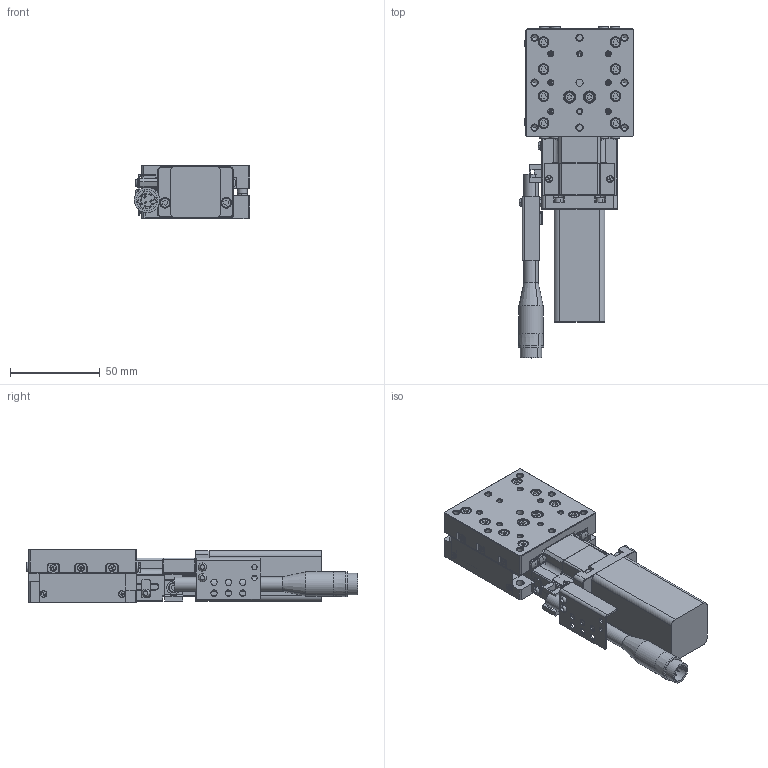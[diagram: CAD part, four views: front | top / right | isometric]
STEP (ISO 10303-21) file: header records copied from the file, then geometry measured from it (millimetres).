
FILE_DESCRIPTION (( 'STEP AP214' ), '1' );
FILE_NAME ('TXA6020B-L2-MC28L.STEP', '2025-01-03T11:13:44', ( '' ), ( '' ), 'SwSTEP 2.0', 'SolidWorks 2020', '' );
FILE_SCHEMA (( 'AUTOMOTIVE_DESIGN' ));
Length unit declared in the file: millimetre
Products named in the file (1): TXA6020B-L2-MC28L
Bounding box: 63.98 x 184.5 x 30 mm (x, y, z)
Volume: 157337.1 mm3; surface area: 76808.4 mm2
Topology: 74 solids, 74 shells, 3136 faces, 7759 edges, 4880 vertices
Faces by surface type: plane 1552, cylinder 788, cone 482, torus 160, bspline 154
Entity records: 135395 total; most frequent: CARTESIAN_POINT 25113, DIRECTION 15513, ORIENTED_EDGE 15386, EDGE_CURVE 7693, AXIS2_PLACEMENT_3D 5357, VERTEX_POINT 4880, LINE 4799, VECTOR 4799
